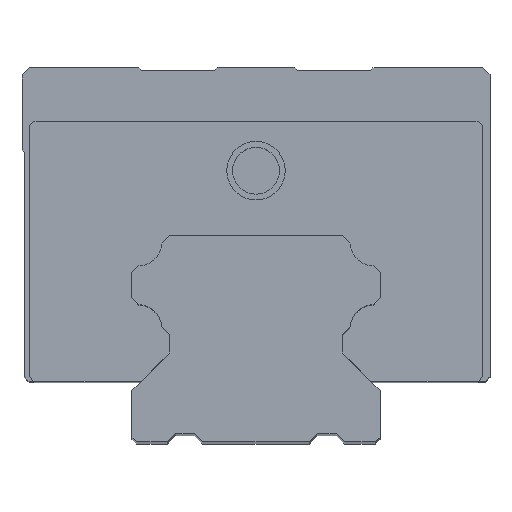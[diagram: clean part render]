
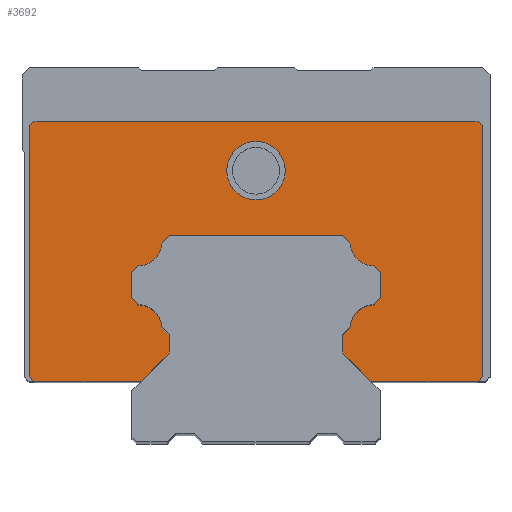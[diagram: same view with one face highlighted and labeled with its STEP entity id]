
A CAD part, top view. The second image highlights one B-rep face of the part: STEP entity #3692.
In plain terms, the highlighted planar face has unit normal (0, 0, 1).
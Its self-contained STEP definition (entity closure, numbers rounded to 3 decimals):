
#1923=DIRECTION('',(1.,0.,0.));
#1924=VECTOR('',#1923,23.);
#1925=CARTESIAN_POINT('',(-47.5,13.,83.35));
#1926=LINE('',#1925,#1924);
#1927=DIRECTION('',(0.707,-0.707,0.));
#1928=VECTOR('',#1927,1.414);
#1929=CARTESIAN_POINT('',(-48.5,14.,83.35));
#1930=LINE('',#1929,#1928);
#1931=DIRECTION('',(0.,-1.,0.));
#1932=VECTOR('',#1931,53.);
#1933=CARTESIAN_POINT('',(-48.5,67.,83.35));
#1934=LINE('',#1933,#1932);
#1935=CARTESIAN_POINT('',(-47.,67.,83.35));
#1936=DIRECTION('',(0.,0.,1.));
#1937=DIRECTION('',(0.,1.,0.));
#1938=AXIS2_PLACEMENT_3D('',#1935,#1936,#1937);
#1940=DIRECTION('',(-1.,0.,0.));
#1941=VECTOR('',#1940,94.);
#1942=CARTESIAN_POINT('',(47.,68.5,83.35));
#1943=LINE('',#1942,#1941);
#1944=CARTESIAN_POINT('',(47.,67.,83.35));
#1945=DIRECTION('',(0.,0.,1.));
#1946=DIRECTION('',(1.,0.,0.));
#1947=AXIS2_PLACEMENT_3D('',#1944,#1945,#1946);
#1949=DIRECTION('',(0.,1.,0.));
#1950=VECTOR('',#1949,53.);
#1951=CARTESIAN_POINT('',(48.5,14.,83.35));
#1952=LINE('',#1951,#1950);
#1953=DIRECTION('',(0.707,0.707,0.));
#1954=VECTOR('',#1953,1.414);
#1955=CARTESIAN_POINT('',(47.5,13.,83.35));
#1956=LINE('',#1955,#1954);
#1957=DIRECTION('',(1.,0.,0.));
#1958=VECTOR('',#1957,23.);
#1959=CARTESIAN_POINT('',(24.5,13.,83.35));
#1960=LINE('',#1959,#1958);
#1961=DIRECTION('',(0.707,-0.707,0.));
#1962=VECTOR('',#1961,8.415);
#1963=CARTESIAN_POINT('',(18.55,18.95,83.35));
#1964=LINE('',#1963,#1962);
#1965=DIRECTION('',(0.,-1.,0.));
#1966=VECTOR('',#1965,3.9);
#1967=CARTESIAN_POINT('',(18.55,22.85,83.35));
#1968=LINE('',#1967,#1966);
#1969=DIRECTION('',(-0.707,-0.707,0.));
#1970=VECTOR('',#1969,2.116);
#1971=CARTESIAN_POINT('',(20.046,24.346,83.35));
#1972=LINE('',#1971,#1970);
#1973=CARTESIAN_POINT('',(25.336,24.014,83.35));
#1974=DIRECTION('',(0.,0.,1.));
#1975=DIRECTION('',(-0.063,0.998,0.));
#1976=AXIS2_PLACEMENT_3D('',#1973,#1974,#1975);
#1978=DIRECTION('',(-0.707,-0.707,0.));
#1979=VECTOR('',#1978,2.116);
#1980=CARTESIAN_POINT('',(26.5,30.8,83.35));
#1981=LINE('',#1980,#1979);
#1982=DIRECTION('',(0.,-1.,0.));
#1983=VECTOR('',#1982,5.25);
#1984=CARTESIAN_POINT('',(26.5,36.05,83.35));
#1985=LINE('',#1984,#1983);
#1986=DIRECTION('',(0.707,-0.707,0.));
#1987=VECTOR('',#1986,2.116);
#1988=CARTESIAN_POINT('',(25.004,37.546,83.35));
#1989=LINE('',#1988,#1987);
#1990=CARTESIAN_POINT('',(25.336,42.836,83.35));
#1991=DIRECTION('',(0.,0.,1.));
#1992=DIRECTION('',(-0.998,-0.063,0.));
#1993=AXIS2_PLACEMENT_3D('',#1990,#1991,#1992);
#1995=DIRECTION('',(0.707,-0.707,0.));
#1996=VECTOR('',#1995,2.116);
#1997=CARTESIAN_POINT('',(18.55,44.,83.35));
#1998=LINE('',#1997,#1996);
#1999=DIRECTION('',(1.,0.,0.));
#2000=VECTOR('',#1999,37.1);
#2001=CARTESIAN_POINT('',(-18.55,44.,83.35));
#2002=LINE('',#2001,#2000);
#2003=DIRECTION('',(0.707,0.707,0.));
#2004=VECTOR('',#2003,2.116);
#2005=CARTESIAN_POINT('',(-20.046,42.504,83.35));
#2006=LINE('',#2005,#2004);
#2007=CARTESIAN_POINT('',(-25.336,42.836,83.35));
#2008=DIRECTION('',(0.,0.,1.));
#2009=DIRECTION('',(0.063,-0.998,0.));
#2010=AXIS2_PLACEMENT_3D('',#2007,#2008,#2009);
#2012=DIRECTION('',(0.707,0.707,0.));
#2013=VECTOR('',#2012,2.116);
#2014=CARTESIAN_POINT('',(-26.5,36.05,83.35));
#2015=LINE('',#2014,#2013);
#2016=DIRECTION('',(0.,1.,0.));
#2017=VECTOR('',#2016,5.25);
#2018=CARTESIAN_POINT('',(-26.5,30.8,83.35));
#2019=LINE('',#2018,#2017);
#2020=DIRECTION('',(-0.707,0.707,0.));
#2021=VECTOR('',#2020,2.116);
#2022=CARTESIAN_POINT('',(-25.004,29.304,83.35));
#2023=LINE('',#2022,#2021);
#2024=CARTESIAN_POINT('',(-25.336,24.014,83.35));
#2025=DIRECTION('',(0.,0.,1.));
#2026=DIRECTION('',(0.998,0.063,0.));
#2027=AXIS2_PLACEMENT_3D('',#2024,#2025,#2026);
#2029=DIRECTION('',(-0.707,0.707,0.));
#2030=VECTOR('',#2029,2.116);
#2031=CARTESIAN_POINT('',(-18.55,22.85,83.35));
#2032=LINE('',#2031,#2030);
#2033=DIRECTION('',(0.,1.,0.));
#2034=VECTOR('',#2033,3.9);
#2035=CARTESIAN_POINT('',(-18.55,18.95,83.35));
#2036=LINE('',#2035,#2034);
#2037=DIRECTION('',(0.707,0.707,0.));
#2038=VECTOR('',#2037,8.415);
#2039=CARTESIAN_POINT('',(-24.5,13.,83.35));
#2040=LINE('',#2039,#2038);
#2041=CARTESIAN_POINT('',(0.,58.,83.35));
#2042=DIRECTION('',(0.,0.,1.));
#2043=DIRECTION('',(1.,0.,0.));
#2044=AXIS2_PLACEMENT_3D('',#2041,#2042,#2043);
#2046=CARTESIAN_POINT('',(0.,58.,83.35));
#2047=DIRECTION('',(0.,0.,1.));
#2048=DIRECTION('',(-1.,0.,0.));
#2049=AXIS2_PLACEMENT_3D('',#2046,#2047,#2048);
#2839=CARTESIAN_POINT('',(-47.5,13.,83.35));
#2840=CARTESIAN_POINT('',(-24.5,13.,83.35));
#2841=VERTEX_POINT('',#2839);
#2842=VERTEX_POINT('',#2840);
#2843=CARTESIAN_POINT('',(-18.55,18.95,83.35));
#2844=VERTEX_POINT('',#2843);
#2845=CARTESIAN_POINT('',(-18.55,22.85,83.35));
#2846=VERTEX_POINT('',#2845);
#2847=CARTESIAN_POINT('',(-20.046,24.346,83.35));
#2848=VERTEX_POINT('',#2847);
#2849=CARTESIAN_POINT('',(-25.004,29.304,83.35));
#2850=VERTEX_POINT('',#2849);
#2851=CARTESIAN_POINT('',(-26.5,30.8,83.35));
#2852=VERTEX_POINT('',#2851);
#2853=CARTESIAN_POINT('',(-26.5,36.05,83.35));
#2854=VERTEX_POINT('',#2853);
#2855=CARTESIAN_POINT('',(-25.004,37.546,83.35));
#2856=VERTEX_POINT('',#2855);
#2857=CARTESIAN_POINT('',(-20.046,42.504,83.35));
#2858=VERTEX_POINT('',#2857);
#2859=CARTESIAN_POINT('',(-18.55,44.,83.35));
#2860=VERTEX_POINT('',#2859);
#2861=CARTESIAN_POINT('',(18.55,44.,83.35));
#2862=VERTEX_POINT('',#2861);
#2863=CARTESIAN_POINT('',(20.046,42.504,83.35));
#2864=VERTEX_POINT('',#2863);
#2865=CARTESIAN_POINT('',(25.004,37.546,83.35));
#2866=VERTEX_POINT('',#2865);
#2867=CARTESIAN_POINT('',(26.5,36.05,83.35));
#2868=VERTEX_POINT('',#2867);
#2869=CARTESIAN_POINT('',(26.5,30.8,83.35));
#2870=VERTEX_POINT('',#2869);
#2871=CARTESIAN_POINT('',(25.004,29.304,83.35));
#2872=VERTEX_POINT('',#2871);
#2873=CARTESIAN_POINT('',(20.046,24.346,83.35));
#2874=VERTEX_POINT('',#2873);
#2875=CARTESIAN_POINT('',(18.55,22.85,83.35));
#2876=VERTEX_POINT('',#2875);
#2877=CARTESIAN_POINT('',(18.55,18.95,83.35));
#2878=VERTEX_POINT('',#2877);
#2879=CARTESIAN_POINT('',(24.5,13.,83.35));
#2880=VERTEX_POINT('',#2879);
#2881=CARTESIAN_POINT('',(47.5,13.,83.35));
#2882=VERTEX_POINT('',#2881);
#2883=CARTESIAN_POINT('',(48.5,14.,83.35));
#2884=VERTEX_POINT('',#2883);
#2885=CARTESIAN_POINT('',(48.5,67.,83.35));
#2886=VERTEX_POINT('',#2885);
#2887=CARTESIAN_POINT('',(47.,68.5,83.35));
#2888=VERTEX_POINT('',#2887);
#2889=CARTESIAN_POINT('',(-47.,68.5,83.35));
#2890=VERTEX_POINT('',#2889);
#2891=CARTESIAN_POINT('',(-48.5,67.,83.35));
#2892=VERTEX_POINT('',#2891);
#2893=CARTESIAN_POINT('',(-48.5,14.,83.35));
#2894=VERTEX_POINT('',#2893);
#3011=CARTESIAN_POINT('',(6.25,58.,83.35));
#3012=CARTESIAN_POINT('',(-6.25,58.,83.35));
#3013=VERTEX_POINT('',#3011);
#3014=VERTEX_POINT('',#3012);
#3648=CARTESIAN_POINT('',(-50.,80.,83.35));
#3649=DIRECTION('',(0.,0.,1.));
#3650=DIRECTION('',(1.,0.,0.));
#3651=AXIS2_PLACEMENT_3D('',#3648,#3649,#3650);
#3652=PLANE('',#3651);
#3653=ORIENTED_EDGE('',*,*,#3050,.F.);
#3655=ORIENTED_EDGE('',*,*,#3654,.F.);
#3657=ORIENTED_EDGE('',*,*,#3656,.F.);
#3659=ORIENTED_EDGE('',*,*,#3658,.F.);
#3660=ORIENTED_EDGE('',*,*,#3582,.F.);
#3661=ORIENTED_EDGE('',*,*,#3602,.F.);
#3662=ORIENTED_EDGE('',*,*,#3620,.F.);
#3663=ORIENTED_EDGE('',*,*,#3641,.F.);
#3664=ORIENTED_EDGE('',*,*,#3350,.F.);
#3665=ORIENTED_EDGE('',*,*,#3335,.F.);
#3666=ORIENTED_EDGE('',*,*,#3320,.F.);
#3667=ORIENTED_EDGE('',*,*,#3305,.F.);
#3668=ORIENTED_EDGE('',*,*,#3290,.F.);
#3669=ORIENTED_EDGE('',*,*,#3275,.F.);
#3670=ORIENTED_EDGE('',*,*,#3260,.F.);
#3671=ORIENTED_EDGE('',*,*,#3245,.F.);
#3672=ORIENTED_EDGE('',*,*,#3230,.F.);
#3673=ORIENTED_EDGE('',*,*,#3215,.F.);
#3674=ORIENTED_EDGE('',*,*,#3200,.F.);
#3675=ORIENTED_EDGE('',*,*,#3185,.F.);
#3676=ORIENTED_EDGE('',*,*,#3170,.F.);
#3677=ORIENTED_EDGE('',*,*,#3155,.F.);
#3678=ORIENTED_EDGE('',*,*,#3140,.F.);
#3679=ORIENTED_EDGE('',*,*,#3125,.F.);
#3680=ORIENTED_EDGE('',*,*,#3110,.F.);
#3681=ORIENTED_EDGE('',*,*,#3095,.F.);
#3682=ORIENTED_EDGE('',*,*,#3080,.F.);
#3683=ORIENTED_EDGE('',*,*,#3065,.F.);
#3684=EDGE_LOOP('',(#3653,#3655,#3657,#3659,#3660,#3661,#3662,#3663,#3664,#3665,
#3666,#3667,#3668,#3669,#3670,#3671,#3672,#3673,#3674,#3675,#3676,#3677,#3678,
#3679,#3680,#3681,#3682,#3683));
#3685=FACE_OUTER_BOUND('',#3684,.F.);
#3687=ORIENTED_EDGE('',*,*,#3686,.T.);
#3689=ORIENTED_EDGE('',*,*,#3688,.T.);
#3690=EDGE_LOOP('',(#3687,#3689));
#3691=FACE_BOUND('',#3690,.F.);
#3692=ADVANCED_FACE('',(#3685,#3691),#3652,.T.);
#1939=CIRCLE('',#1938,1.5);
#1948=CIRCLE('',#1947,1.5);
#1977=CIRCLE('',#1976,5.3);
#1994=CIRCLE('',#1993,5.3);
#2011=CIRCLE('',#2010,5.3);
#2028=CIRCLE('',#2027,5.3);
#2045=CIRCLE('',#2044,6.25);
#2050=CIRCLE('',#2049,6.25);
#3050=EDGE_CURVE('',#2841,#2842,#1926,.T.);
#3065=EDGE_CURVE('',#2842,#2844,#2040,.T.);
#3080=EDGE_CURVE('',#2844,#2846,#2036,.T.);
#3095=EDGE_CURVE('',#2846,#2848,#2032,.T.);
#3110=EDGE_CURVE('',#2848,#2850,#2028,.T.);
#3125=EDGE_CURVE('',#2850,#2852,#2023,.T.);
#3140=EDGE_CURVE('',#2852,#2854,#2019,.T.);
#3155=EDGE_CURVE('',#2854,#2856,#2015,.T.);
#3170=EDGE_CURVE('',#2856,#2858,#2011,.T.);
#3185=EDGE_CURVE('',#2858,#2860,#2006,.T.);
#3200=EDGE_CURVE('',#2860,#2862,#2002,.T.);
#3215=EDGE_CURVE('',#2862,#2864,#1998,.T.);
#3230=EDGE_CURVE('',#2864,#2866,#1994,.T.);
#3245=EDGE_CURVE('',#2866,#2868,#1989,.T.);
#3260=EDGE_CURVE('',#2868,#2870,#1985,.T.);
#3275=EDGE_CURVE('',#2870,#2872,#1981,.T.);
#3290=EDGE_CURVE('',#2872,#2874,#1977,.T.);
#3305=EDGE_CURVE('',#2874,#2876,#1972,.T.);
#3320=EDGE_CURVE('',#2876,#2878,#1968,.T.);
#3335=EDGE_CURVE('',#2878,#2880,#1964,.T.);
#3350=EDGE_CURVE('',#2880,#2882,#1960,.T.);
#3582=EDGE_CURVE('',#2888,#2890,#1943,.T.);
#3602=EDGE_CURVE('',#2886,#2888,#1948,.T.);
#3620=EDGE_CURVE('',#2884,#2886,#1952,.T.);
#3641=EDGE_CURVE('',#2882,#2884,#1956,.T.);
#3654=EDGE_CURVE('',#2894,#2841,#1930,.T.);
#3656=EDGE_CURVE('',#2892,#2894,#1934,.T.);
#3658=EDGE_CURVE('',#2890,#2892,#1939,.T.);
#3686=EDGE_CURVE('',#3013,#3014,#2045,.T.);
#3688=EDGE_CURVE('',#3014,#3013,#2050,.T.);
